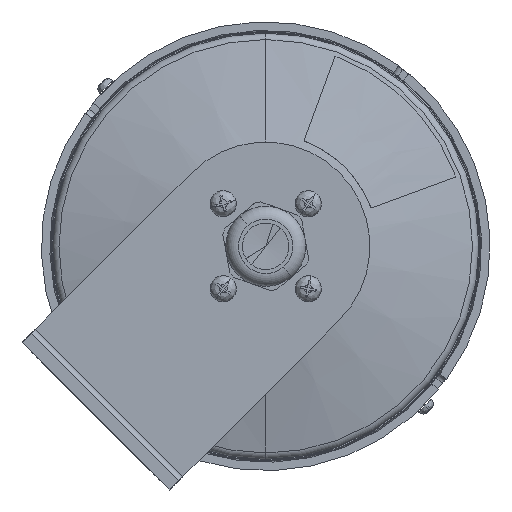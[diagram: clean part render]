
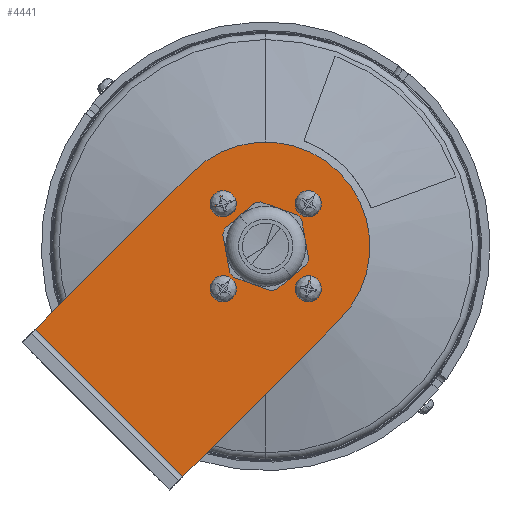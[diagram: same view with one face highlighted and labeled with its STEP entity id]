
A CAD part, front view. The second image highlights one B-rep face of the part: STEP entity #4441.
In plain terms, the highlighted planar face has unit normal (0, -1, 0).
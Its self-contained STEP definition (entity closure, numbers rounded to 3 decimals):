
#1375 = CARTESIAN_POINT ( 'NONE',  ( 22.981, -5., -22.981 ) ) ;
#1393 = CARTESIAN_POINT ( 'NONE',  ( -22.981, -5., 22.981 ) ) ;
#1441 = DIRECTION ( 'NONE',  ( -0.707, 0., -0.707 ) ) ;
#1442 = DIRECTION ( 'NONE',  ( 0., 1., 0. ) ) ;
#1443 = CARTESIAN_POINT ( 'NONE',  ( 0., -5., 0. ) ) ;
#1444 = AXIS2_PLACEMENT_3D ( 'NONE', #1443, #1442, #1441 ) ;
#1449 = CIRCLE ( 'NONE', #1444, 32.5 ) ;
#1558 = CIRCLE ( 'NONE', #1738, 10.5 ) ;
#1559 = AXIS2_PLACEMENT_3D ( 'NONE', #1568, #1740, #1739 ) ;
#1560 = DIRECTION ( 'NONE',  ( -0.707, 0., -0.707 ) ) ;
#1561 = DIRECTION ( 'NONE',  ( 0., 1., 0. ) ) ;
#1562 = AXIS2_PLACEMENT_3D ( 'NONE', #1571, #1561, #1560 ) ;
#1563 = DIRECTION ( 'NONE',  ( -0.707, 0., -0.707 ) ) ;
#1564 = DIRECTION ( 'NONE',  ( 0., 1., 0. ) ) ;
#1565 = CARTESIAN_POINT ( 'NONE',  ( 13.258, -5., 13.258 ) ) ;
#1566 = AXIS2_PLACEMENT_3D ( 'NONE', #1565, #1564, #1563 ) ;
#1567 = CIRCLE ( 'NONE', #1566, 2.25 ) ;
#1568 = CARTESIAN_POINT ( 'NONE',  ( -13.258, -5., 13.258 ) ) ;
#1569 = CARTESIAN_POINT ( 'NONE',  ( 14.849, -5., -11.667 ) ) ;
#1570 = CIRCLE ( 'NONE', #1728, 2.25 ) ;
#1571 = CARTESIAN_POINT ( 'NONE',  ( 0., -5., 0. ) ) ;
#1572 = CIRCLE ( 'NONE', #1562, 10.5 ) ;
#1576 = CIRCLE ( 'NONE', #1559, 2.25 ) ;
#1577 = CARTESIAN_POINT ( 'NONE',  ( 11.667, -5., 11.667 ) ) ;
#1616 = CARTESIAN_POINT ( 'NONE',  ( 13.258, -5., 13.258 ) ) ;
#1619 = DIRECTION ( 'NONE',  ( -0.707, 0., -0.707 ) ) ;
#1620 = DIRECTION ( 'NONE',  ( 0., 1., 0. ) ) ;
#1621 = CARTESIAN_POINT ( 'NONE',  ( -13.258, -5., -13.258 ) ) ;
#1622 = AXIS2_PLACEMENT_3D ( 'NONE', #1621, #1620, #1619 ) ;
#1627 = AXIS2_PLACEMENT_3D ( 'NONE', #1616, #1708, #1707 ) ;
#1628 = DIRECTION ( 'NONE',  ( -0.707, 0., -0.707 ) ) ;
#1629 = DIRECTION ( 'NONE',  ( 0., 1., 0. ) ) ;
#1630 = AXIS2_PLACEMENT_3D ( 'NONE', #1637, #1629, #1628 ) ;
#1631 = CIRCLE ( 'NONE', #1630, 2.25 ) ;
#1632 = CARTESIAN_POINT ( 'NONE',  ( -71.771, -5., -25.809 ) ) ;
#1633 = CARTESIAN_POINT ( 'NONE',  ( -25.809, -5., -71.771 ) ) ;
#1634 = CARTESIAN_POINT ( 'NONE',  ( -7.425, -5., -7.425 ) ) ;
#1636 = CARTESIAN_POINT ( 'NONE',  ( -14.849, -5., -14.849 ) ) ;
#1637 = CARTESIAN_POINT ( 'NONE',  ( 13.258, -5., -13.258 ) ) ;
#1675 = DIRECTION ( 'NONE',  ( -0.707, 0., 0.707 ) ) ;
#1676 = LINE ( 'NONE', #1678, #1730 ) ;
#1677 = CIRCLE ( 'NONE', #1622, 2.25 ) ;
#1678 = CARTESIAN_POINT ( 'NONE',  ( -27.224, -5., -73.186 ) ) ;
#1679 = DIRECTION ( 'NONE',  ( -0.707, 0., -0.707 ) ) ;
#1680 = DIRECTION ( 'NONE',  ( 0., 1., 0. ) ) ;
#1681 = CARTESIAN_POINT ( 'NONE',  ( -13.258, -5., -13.258 ) ) ;
#1682 = AXIS2_PLACEMENT_3D ( 'NONE', #1681, #1680, #1679 ) ;
#1684 = VECTOR ( 'NONE', #1675, 1000. ) ;
#1685 = CIRCLE ( 'NONE', #1682, 2.25 ) ;
#1686 = DIRECTION ( 'NONE',  ( -0.707, 0., -0.707 ) ) ;
#1687 = DIRECTION ( 'NONE',  ( 0., 1., 0. ) ) ;
#1688 = CARTESIAN_POINT ( 'NONE',  ( -25.809, -5., -71.771 ) ) ;
#1689 = LINE ( 'NONE', #1688, #1684 ) ;
#1707 = DIRECTION ( 'NONE',  ( -0.707, 0., -0.707 ) ) ;
#1708 = DIRECTION ( 'NONE',  ( 0., 1., 0. ) ) ;
#1714 = DIRECTION ( 'NONE',  ( 0.707, 0., 0.707 ) ) ;
#1715 = VECTOR ( 'NONE', #1714, 1000. ) ;
#1716 = CARTESIAN_POINT ( 'NONE',  ( -22.981, -5., 22.981 ) ) ;
#1720 = LINE ( 'NONE', #1716, #1715 ) ;
#1722 = CIRCLE ( 'NONE', #1627, 2.25 ) ;
#1724 = DIRECTION ( 'NONE',  ( -0.707, 0., -0.707 ) ) ;
#1725 = DIRECTION ( 'NONE',  ( -0.707, 0., -0.707 ) ) ;
#1726 = DIRECTION ( 'NONE',  ( 0., 1., 0. ) ) ;
#1727 = CARTESIAN_POINT ( 'NONE',  ( 0., -5., 0. ) ) ;
#1728 = AXIS2_PLACEMENT_3D ( 'NONE', #1732, #1687, #1686 ) ;
#1729 = CARTESIAN_POINT ( 'NONE',  ( -11.667, -5., -11.667 ) ) ;
#1730 = VECTOR ( 'NONE', #1724, 1000. ) ;
#1731 = CARTESIAN_POINT ( 'NONE',  ( 7.425, -5., 7.425 ) ) ;
#1732 = CARTESIAN_POINT ( 'NONE',  ( 13.258, -5., -13.258 ) ) ;
#1733 = DIRECTION ( 'NONE',  ( -0.707, 0., -0.707 ) ) ;
#1734 = DIRECTION ( 'NONE',  ( 0., 1., 0. ) ) ;
#1735 = CARTESIAN_POINT ( 'NONE',  ( -13.258, -5., 13.258 ) ) ;
#1736 = AXIS2_PLACEMENT_3D ( 'NONE', #1735, #1734, #1733 ) ;
#1737 = CARTESIAN_POINT ( 'NONE',  ( 14.849, -5., 14.849 ) ) ;
#1738 = AXIS2_PLACEMENT_3D ( 'NONE', #1727, #1726, #1725 ) ;
#1739 = DIRECTION ( 'NONE',  ( -0.707, 0., -0.707 ) ) ;
#1740 = DIRECTION ( 'NONE',  ( 0., 1., 0. ) ) ;
#1758 = CARTESIAN_POINT ( 'NONE',  ( -14.849, -5., 11.667 ) ) ;
#1759 = CARTESIAN_POINT ( 'NONE',  ( 11.667, -5., -14.849 ) ) ;
#1763 = CARTESIAN_POINT ( 'NONE',  ( -11.667, -5., 14.849 ) ) ;
#1764 = CIRCLE ( 'NONE', #1736, 2.25 ) ;
#1779 = CARTESIAN_POINT ( 'NONE',  ( 22.981, -5., 22.981 ) ) ;
#2416 = DIRECTION ( 'NONE',  ( -0.707, 0., -0.707 ) ) ;
#2417 = DIRECTION ( 'NONE',  ( 0., 1., 0. ) ) ;
#2432 = CARTESIAN_POINT ( 'NONE',  ( 0., -5., 0. ) ) ;
#2437 = AXIS2_PLACEMENT_3D ( 'NONE', #2432, #2417, #2416 ) ;
#2438 = CIRCLE ( 'NONE', #2437, 32.5 ) ;
#2959 = PLANE ( 'NONE',  #2982 ) ;
#2960 = FACE_OUTER_BOUND ( 'NONE', #4122, .T. ) ;
#2962 = FACE_BOUND ( 'NONE', #4109, .T. ) ;
#2965 = FACE_BOUND ( 'NONE', #4086, .T. ) ;
#2967 = FACE_BOUND ( 'NONE', #4117, .T. ) ;
#2981 = FACE_BOUND ( 'NONE', #4116, .T. ) ;
#2982 = AXIS2_PLACEMENT_3D ( 'NONE', #3002, #3001, #3005 ) ;
#2983 = FACE_BOUND ( 'NONE', #4442, .T. ) ;
#3001 = DIRECTION ( 'NONE',  ( 0., 1., 0. ) ) ;
#3002 = CARTESIAN_POINT ( 'NONE',  ( 0., -5., 0. ) ) ;
#3005 = DIRECTION ( 'NONE',  ( -0.707, 0., -0.707 ) ) ;
#4057 = EDGE_CURVE ( 'NONE', #4098, #4058, #1449, .T. ) ;
#4058 = VERTEX_POINT ( 'NONE', #1375 ) ;
#4078 = VERTEX_POINT ( 'NONE', #1393 ) ;
#4086 = EDGE_LOOP ( 'NONE', ( #4110, #4127 ) ) ;
#4087 = ORIENTED_EDGE ( 'NONE', *, *, #4405, .F. ) ;
#4092 = ORIENTED_EDGE ( 'NONE', *, *, #4103, .T. ) ;
#4098 = VERTEX_POINT ( 'NONE', #1779 ) ;
#4099 = ORIENTED_EDGE ( 'NONE', *, *, #4057, .F. ) ;
#4100 = VERTEX_POINT ( 'NONE', #1759 ) ;
#4101 = VERTEX_POINT ( 'NONE', #1577 ) ;
#4102 = VERTEX_POINT ( 'NONE', #1758 ) ;
#4103 = EDGE_CURVE ( 'NONE', #4101, #4118, #1567, .T. ) ;
#4104 = VERTEX_POINT ( 'NONE', #1763 ) ;
#4105 = EDGE_CURVE ( 'NONE', #4137, #4126, #1572, .T. ) ;
#4106 = EDGE_CURVE ( 'NONE', #4102, #4104, #1576, .T. ) ;
#4107 = ORIENTED_EDGE ( 'NONE', *, *, #4135, .T. ) ;
#4108 = ORIENTED_EDGE ( 'NONE', *, *, #4130, .T. ) ;
#4109 = EDGE_LOOP ( 'NONE', ( #4120, #4107 ) ) ;
#4110 = ORIENTED_EDGE ( 'NONE', *, *, #4105, .T. ) ;
#4111 = EDGE_CURVE ( 'NONE', #4104, #4102, #1764, .T. ) ;
#4112 = VERTEX_POINT ( 'NONE', #1569 ) ;
#4113 = ORIENTED_EDGE ( 'NONE', *, *, #4106, .T. ) ;
#4114 = EDGE_CURVE ( 'NONE', #4126, #4137, #1558, .T. ) ;
#4115 = EDGE_CURVE ( 'NONE', #4100, #4112, #1570, .T. ) ;
#4116 = EDGE_LOOP ( 'NONE', ( #4113, #4136 ) ) ;
#4117 = EDGE_LOOP ( 'NONE', ( #4131, #4108 ) ) ;
#4118 = VERTEX_POINT ( 'NONE', #1737 ) ;
#4119 = VERTEX_POINT ( 'NONE', #1729 ) ;
#4120 = ORIENTED_EDGE ( 'NONE', *, *, #4121, .T. ) ;
#4121 = EDGE_CURVE ( 'NONE', #4129, #4119, #1685, .T. ) ;
#4122 = EDGE_LOOP ( 'NONE', ( #4132, #4123, #4099, #4087, #4148 ) ) ;
#4123 = ORIENTED_EDGE ( 'NONE', *, *, #4128, .F. ) ;
#4124 = EDGE_CURVE ( 'NONE', #4133, #4134, #1689, .T. ) ;
#4125 = ORIENTED_EDGE ( 'NONE', *, *, #4140, .T. ) ;
#4126 = VERTEX_POINT ( 'NONE', #1731 ) ;
#4127 = ORIENTED_EDGE ( 'NONE', *, *, #4114, .T. ) ;
#4128 = EDGE_CURVE ( 'NONE', #4058, #4133, #1676, .T. ) ;
#4129 = VERTEX_POINT ( 'NONE', #1636 ) ;
#4130 = EDGE_CURVE ( 'NONE', #4112, #4100, #1631, .T. ) ;
#4131 = ORIENTED_EDGE ( 'NONE', *, *, #4115, .T. ) ;
#4132 = ORIENTED_EDGE ( 'NONE', *, *, #4124, .F. ) ;
#4133 = VERTEX_POINT ( 'NONE', #1633 ) ;
#4134 = VERTEX_POINT ( 'NONE', #1632 ) ;
#4135 = EDGE_CURVE ( 'NONE', #4119, #4129, #1677, .T. ) ;
#4136 = ORIENTED_EDGE ( 'NONE', *, *, #4111, .T. ) ;
#4137 = VERTEX_POINT ( 'NONE', #1634 ) ;
#4139 = EDGE_CURVE ( 'NONE', #4134, #4078, #1720, .T. ) ;
#4140 = EDGE_CURVE ( 'NONE', #4118, #4101, #1722, .T. ) ;
#4148 = ORIENTED_EDGE ( 'NONE', *, *, #4139, .F. ) ;
#4405 = EDGE_CURVE ( 'NONE', #4078, #4098, #2438, .T. ) ;
#4441 = ADVANCED_FACE ( 'NONE', ( #2983, #2967, #2965, #2981, #2962, #2960 ), #2959, .F. ) ;
#4442 = EDGE_LOOP ( 'NONE', ( #4092, #4125 ) ) ;
